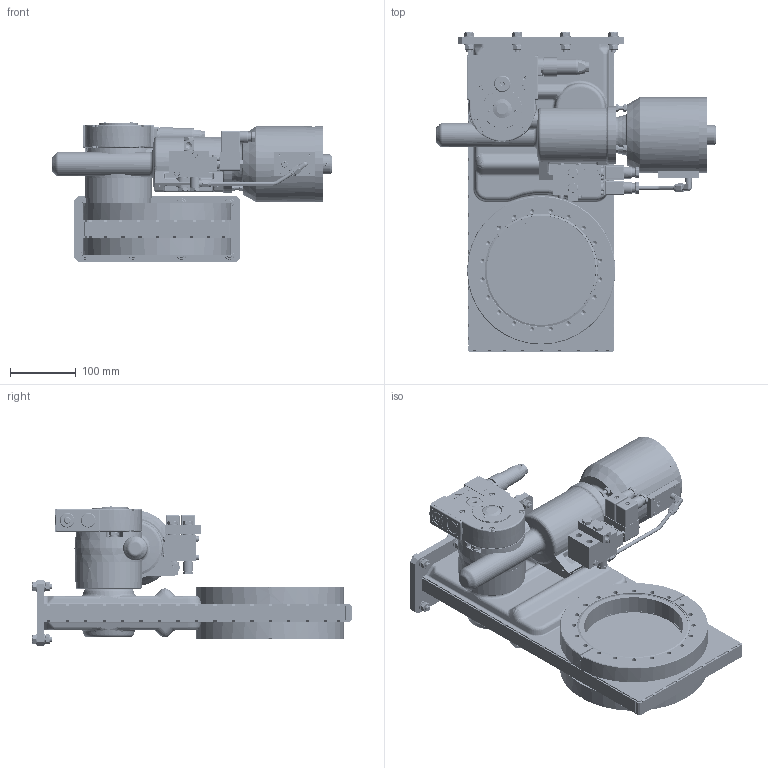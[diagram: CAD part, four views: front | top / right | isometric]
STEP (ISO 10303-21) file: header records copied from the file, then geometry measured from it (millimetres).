
FILE_DESCRIPTION(/* description */ (''),/* implementation_level */ '2;1');
FILE_NAME(/* name */ '1229376601_203.stp',/* time_stamp */ '2020-11-04T12:02:01+01:00',/* author */ (''),/* organization */ (''),/* preprocessor_version */ 'ST-DEVELOPER v16.7',/* originating_system */ 'SIEMENS PLM Software NX 1915',/* authorisation */ '');
FILE_SCHEMA (('AP203_CONFIGURATION_CONTROLLED_3D_DESIGN_OF_MECHANICAL_PARTS_AND_ASSEMBLIES_MIM_LF { 1 0 10303 403 2 1 2}'));
Products named in the file (63): 378604_30357ID; 378604_30354ID; 382382; 90390-01.1; 45736-02.1; 378634; 51086-01.1_30339ID; 46917-01.2; 51086-01.1; 77780-01.2; N-5104-010_4.1; 78209-01_1.2; 73289-01.3; N-6203-417.1; N-6072-440.1; N-6053-411.2; 226266.1; 226258.2; N-6203-075.1; N-6001-456.1; 226296.1; N-6005-425.1; N-6005-474.1; n-8504-002; 60538-01_2.1; N-6029-102.1; 60538-01.1; 60539-01.1; 60532-01_1.2; N-6289-133.2; N-8504-102.3; N-6016-123.1; N-6027-015.3; N-6029-112.1; n-7612-031; N-7618-010.2; 48742-01.1; N-6051-011.1; N-6016-152.1; N-6036-003.1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
Assembly tree (213 placements, depth 5):
  844500
    87183-01.2
    77781-R1.2
      N-5104-010_4.1
      77780-01.2
    N-6053-412.2  x8
    N-5021-497.1  x8
    47031-01.4
    51085-R1.2
      51086-01.1
      46917-01.2
      51086-01.1_30339ID
      378627
        378634
        45736-02.1  x2
        90390-01.1
        378824
          378604_30354ID
        378806
          378604_30357ID
        382382  x86
    77782-01.2
    n-6131-414  x16
    n-5021-515.1  x2
    n-6160-411.1  x2
    N-7501-501_1.2  x2
    n-7016-010  x4
    N-6160-011.1  x2
    467863  x2
    78539-01.1
    N-7015-015.2  x4
    N-5062-002.1  x2
    N-6039-010.1  x2
    N-7501-501_2.2  x2
    N-6036-003.1  x2
    N-6016-152.1  x2
    N-6051-011.1  x2
    48742-01.1
    N-7618-010.2
    n-7612-031
    N-6029-112.1  x2
    N-6027-015.3  x2
    N-6016-123.1  x4
    N-8504-102.3
    N-6289-133.2
    60532-01_1.2  x2
    60539-01.1
    60538-01.1
    N-6029-102.1  x2
    60538-01_2.1
    n-8504-002
    N-6005-474.1  x6
    N-6005-425.1  x4
    226296.1
    N-6001-456.1  x3
    N-6203-075.1
    226258.2
    226266.1
    N-6053-411.2  x3
    N-6072-440.1
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Bounding box: 425.45 x 483.9 x 211.95 mm (x, y, z)
Volume: 4151978.3 mm3; surface area: 1416148.9 mm2
Topology: 280 solids, 280 shells, 5046 faces, 11380 edges, 7143 vertices
Faces by surface type: plane 2551, cylinder 1340, cone 444, bspline 440, torus 170, sphere 59, extrusion 42
Full cylindrical faces by diameter (mm): 1.1 x1, 1.3 x2, 1.5 x7, 1.6 x2, 1.66 x7, 1.8 x7, 2 x24, 2.2 x2, 2.25 x20, 2.387 x4, 2.45 x20, 2.46 x4, 2.5 x5, 2.55 x4, 2.657 x1, 2.8 x8, 2.9 x4, 3 x21, 3.025 x8, 3.07 x12, 3.2 x8, 3.251 x1, 3.26 x4, 3.28 x8, 3.3 x8, 3.4 x4, 3.6 x2, 3.8 x1, 3.85 x4, 4 x17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
Entity records: 107310 total; most frequent: CARTESIAN_POINT 28528, DIRECTION 14438, ORIENTED_EDGE 12972, EDGE_CURVE 6486, AXIS2_PLACEMENT_3D 5916, VERTEX_POINT 4543, EDGE_LOOP 4459, ADVANCED_FACE 3178
